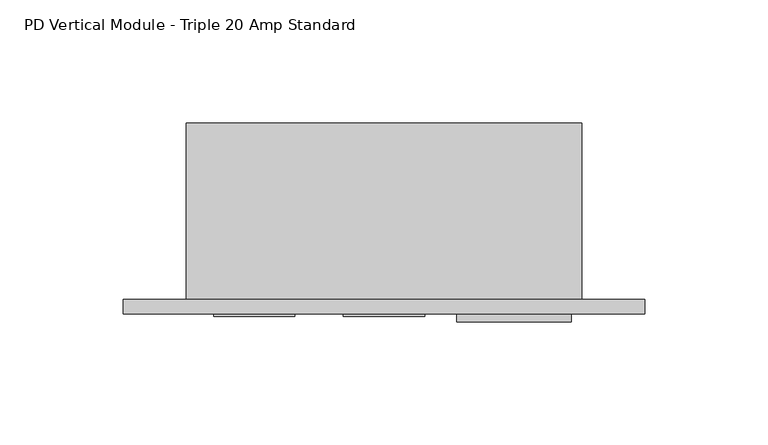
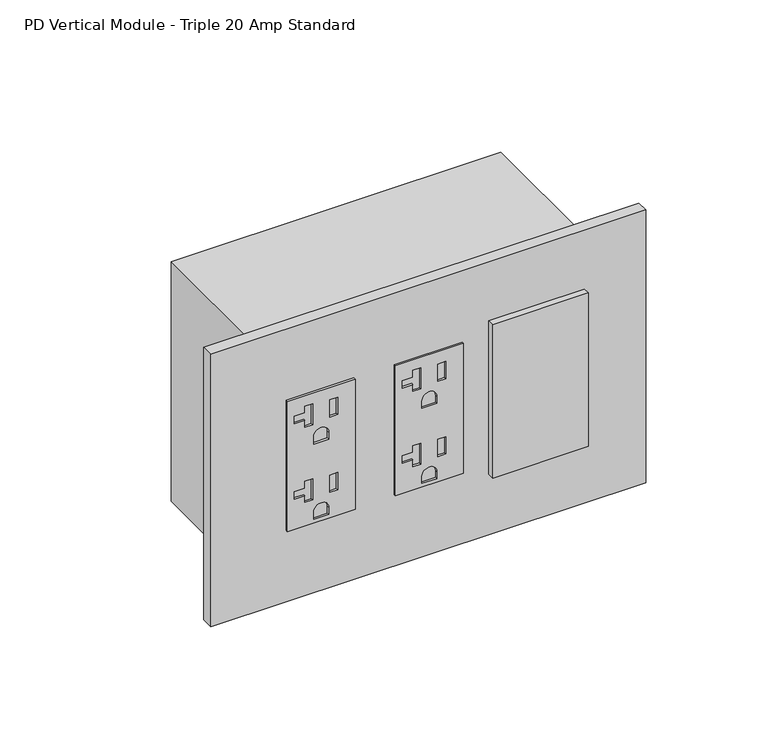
"""IFC4 building model written with IfcOpenShell, lengths in millimetres: proxy geometry, Electrical-Teknion-EPDMT_Vertical_Power_Data_Triple-R2019 : PD Vertical Module - Triple 20 Amp Standard."""

from ifc_helpers import new_model, si_unit, point, frame, frame_2d, origin, place, context, project, spatial, polyline, circle_curve, trimmed, segment, composite_curve, outline, extrude, source, transform, mapped, element, save


def pd_vertical_module_triple_20_amp_standard_58f04986(model_context):
    return source(origin(), model_context, "Body", "SweptSolid", [
        extrude(outline(polyline([(490.6772, 96.7613), (490.6772, 63.7667), (423.7228, 63.7667), (423.7228, 96.7613), (490.6772, 96.7613)]), holes=[polyline([(485.2924, 76.1111), (474.472, 76.1111), (474.472, 72.2757), (477.9518, 72.2757), (477.9518, 67.1703), (481.8126, 67.1703), (481.8126, 72.2757), (485.2924, 72.2757), (485.2924, 76.1111)]), polyline([(484.3145, 88.2777), (475.4499, 88.2777), (475.4499, 84.4423), (484.3145, 84.4423), (484.3145, 88.2777)]), composite_curve([segment(polyline([(464.2866, 83.8962), (464.2866, 76.6318), (467.9188, 76.6318)]), True, "CONTINUOUS"), segment(trimmed(circle_curve(frame_2d((467.9188, 80.264)), 3.6322), [point((467.9188, 76.6318))], [point((467.9188, 83.8962))], True, "CARTESIAN"), True, "CONTINUOUS"), segment(polyline([(467.9188, 83.8962), (464.2866, 83.8962)]), True, "CONTINUOUS")], self_intersect=False), polyline([(446.5574, 76.1111), (435.737, 76.1111), (435.737, 72.2757), (439.2168, 72.2757), (439.2168, 67.1703), (443.0776, 67.1703), (443.0776, 72.2757), (446.5574, 72.2757), (446.5574, 76.1111)]), polyline([(445.5795, 88.2777), (436.7149, 88.2777), (436.7149, 84.4423), (445.5795, 84.4423), (445.5795, 88.2777)]), composite_curve([segment(polyline([(425.5516, 83.8962), (425.5516, 76.6318), (429.1838, 76.6318)]), True, "CONTINUOUS"), segment(trimmed(circle_curve(frame_2d((429.1838, 80.264)), 3.6322), [point((429.1838, 76.6318))], [point((429.1838, 83.8962))], True, "CARTESIAN"), True, "CONTINUOUS"), segment(polyline([(429.1838, 83.8962), (425.5516, 83.8962)]), True, "CONTINUOUS")], self_intersect=False)]), frame((0.0, -6.9294746, 0.0), z_axis=(0.0, 1.0, 0.0), x_axis=(0.0, 0.0, 1.0)), (0.0, 0.0, 1.0), 1.0366746),
        extrude(outline(polyline([(490.6772, 44.0944), (490.6772, 11.0998), (423.7228, 11.0998), (423.7228, 44.0944), (490.6772, 44.0944)]), holes=[polyline([(485.2924, 23.4442), (474.472, 23.4442), (474.472, 19.6088), (477.9518, 19.6088), (477.9518, 14.5034), (481.8126, 14.5034), (481.8126, 19.6088), (485.2924, 19.6088), (485.2924, 23.4442)]), polyline([(484.3145, 35.6108), (475.4499, 35.6108), (475.4499, 31.7754), (484.3145, 31.7754), (484.3145, 35.6108)]), composite_curve([segment(polyline([(464.2866, 31.2293), (464.2866, 23.9649), (467.9188, 23.9649)]), True, "CONTINUOUS"), segment(trimmed(circle_curve(frame_2d((467.9188, 27.5971)), 3.6322), [point((467.9188, 23.9649))], [point((467.9188, 31.2293))], True, "CARTESIAN"), True, "CONTINUOUS"), segment(polyline([(467.9188, 31.2293), (464.2866, 31.2293)]), True, "CONTINUOUS")], self_intersect=False), polyline([(446.5574, 23.4442), (435.737, 23.4442), (435.737, 19.6088), (439.2168, 19.6088), (439.2168, 14.5034), (443.0776, 14.5034), (443.0776, 19.6088), (446.5574, 19.6088), (446.5574, 23.4442)]), polyline([(445.5795, 35.6108), (436.7149, 35.6108), (436.7149, 31.7754), (445.5795, 31.7754), (445.5795, 35.6108)]), composite_curve([segment(polyline([(425.5516, 31.2293), (425.5516, 23.9649), (429.1838, 23.9649)]), True, "CONTINUOUS"), segment(trimmed(circle_curve(frame_2d((429.1838, 27.5971)), 3.6322), [point((429.1838, 23.9649))], [point((429.1838, 31.2293))], True, "CARTESIAN"), True, "CONTINUOUS"), segment(polyline([(429.1838, 31.2293), (425.5516, 31.2293)]), True, "CONTINUOUS")], self_intersect=False)]), frame((0.0, -6.9294746, 0.0), z_axis=(0.0, 1.0, 0.0), x_axis=(0.0, 0.0, 1.0)), (0.0, 0.0, 1.0), 1.0366746),
        extrude(outline(polyline([(109.8296, -5.8928), (156.3624, -5.8928), (156.3624, -9.0678), (109.8296, -9.0678), (109.8296, -5.8928)])), frame((0.0, 0.0, 417.9922742), z_axis=(0.0, 0.0, 1.0), x_axis=(1.0, 0.0, 0.0)), (0.0, 0.0, 1.0), 79.0448),
        extrude(outline(polyline([(-25.6794, 0.0), (186.2074, 0.0), (186.2074, -5.8928), (-25.6794, -5.8928), (-25.6794, 0.0)])), frame((0.0, 0.0, 387.0198), z_axis=(0.0, 0.0, 1.0), x_axis=(1.0, 0.0, 0.0)), (0.0, 0.0, 1.0), 140.3604),
        extrude(outline(polyline([(160.528, 0.0), (0.0, 0.0), (0.0, 71.7296), (160.528, 71.7296), (160.528, 0.0)])), frame((0.0, 0.0, 395.4526), z_axis=(0.0, 0.0, 1.0), x_axis=(1.0, 0.0, 0.0)), (0.0, 0.0, 1.0), 123.4948),
    ])


if __name__ == "__main__":
    model = new_model("IFC4")
    model_context = context("Model", 3, world=origin())
    ifc_project = project(units=[si_unit("LENGTHUNIT", "METRE", prefix="MILLI")], contexts=[model_context])
    site = spatial("IfcSite", under=ifc_project)
    building = spatial("IfcBuilding", under=site)
    placement = place(None, origin())
    pd_vertical_module_triple_20_amp_standard_shape = pd_vertical_module_triple_20_amp_standard_58f04986(model_context)
    element("IfcBuildingElementProxy", 1, Name="Electrical-Teknion-EPDMT_Vertical_Power_Data_Triple-R2019 : PD Vertical Module - Triple 20 Amp Standard", ObjectType="Electrical-Teknion-EPDMT_Vertical_Power_Data_Triple-R2019 : PD Vertical Module - Triple 20 Amp Standard", at=placement, inside=building, context=model_context, shape_type="MappedRepresentation", body=[
        mapped(pd_vertical_module_triple_20_amp_standard_shape, transform((0.0, 0.0, 0.0), x_axis=(1.0, 0.0, 0.0), y_axis=(0.0, 1.0, 0.0), z_axis=(0.0, 0.0, 1.0))),
    ])
    save(model, "model.ifc")
